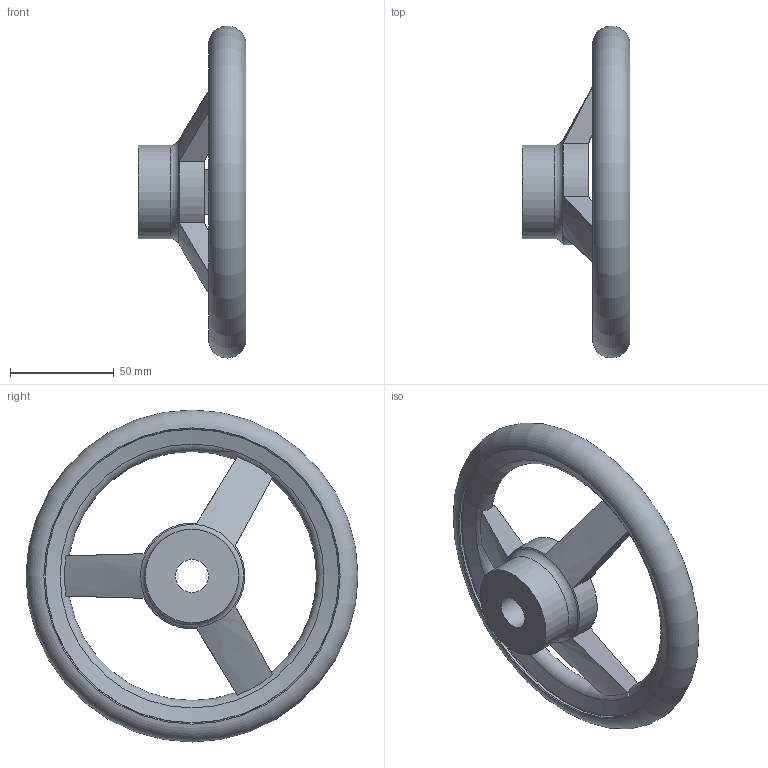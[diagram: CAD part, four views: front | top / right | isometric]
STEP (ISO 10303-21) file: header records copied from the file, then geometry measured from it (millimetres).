
FILE_DESCRIPTION( ( 'STEP AP203' ), '1' );
FILE_NAME( 'C:/Temp/Ganter_Step_05_03_2020/data/1_3/gn_950_1/gn_950_1_b/gn_950_1_b_a/Handwheel GN 950.1-GG-160-B16-A.stp', '2020-03-05T10:32:32', ( 'License CC BY-ND 4.0' ), ( 'CADENAS' ), ' ', 'PARTsolutions', ' ' );
FILE_SCHEMA( ( 'CONFIG_CONTROL_DESIGN' ) );
Length unit declared in the file: millimetre
Products named in the file (1): _Handwheel GN 950.1-GG-160-B16-A
Bounding box: 51.99 x 159.99 x 159.99 mm (x, y, z)
Volume: 179371.3 mm3; surface area: 42549 mm2
Topology: 1 solids, 1 shells, 31 faces, 82 edges, 50 vertices
Faces by surface type: torus 11, plane 8, cylinder 8, cone 4
Full cylindrical faces by diameter (mm): 16 x1, 45 x2, 142 x2
Entity records: 1116 total; most frequent: CARTESIAN_POINT 390, DIRECTION 136, ORIENTED_EDGE 126, AXIS2_PLACEMENT_3D 65, EDGE_CURVE 63, EDGE_LOOP 53, VERTEX_POINT 49, FACE_OUTER_BOUND 44
